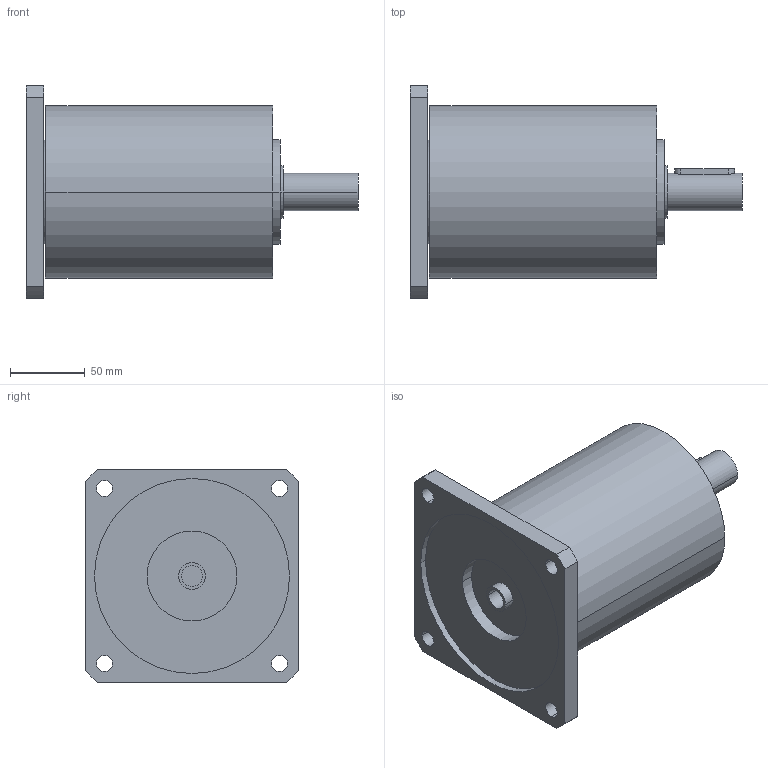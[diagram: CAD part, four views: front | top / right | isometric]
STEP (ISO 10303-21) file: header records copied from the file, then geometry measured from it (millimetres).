
FILE_DESCRIPTION(('CoCreate Modeling STEP Export'),'2;1');
FILE_NAME('GPR125_ig-9-12-16-20-28-35_25_B14_14_P08.stp','2014-08-26T14:09:38',(''),(''),'CoCreate Modeling STEP processor for AP214 (Solid Model)','CoCreate Modeling 16.00C 25-Feb-2009 (C) Parametric Technology GmbH','');
FILE_SCHEMA(('AUTOMOTIVE_DESIGN { 1 0 10303 214 1 1 1 1 }'));
Length unit declared in the file: millimetre
Products named in the file (2): GPR125_ig-9-12-16-20-28-35_25_B14_14_P08
Assembly tree (1 placements, depth 2):
  GPR125_ig-9-12-16-20-28-35_25_B14_14_P08
    GPR125_ig-9-12-16-20-28-35_25_B14_14_P08
Bounding box: 221.4 x 142 x 142 mm (x, y, z)
Volume: 1767454.1 mm3; surface area: 128829.2 mm2
Topology: 1 solids, 1 shells, 68 faces, 188 edges, 134 vertices
Faces by surface type: cylinder 42, plane 22, cone 4
Entity records: 1928 total; most frequent: ORIENTED_EDGE 372, CARTESIAN_POINT 363, DIRECTION 258, EDGE_CURVE 186, VERTEX_POINT 134, AXIS2_PLACEMENT_3D 97, EDGE_LOOP 90, FACE_OUTER_BOUND 68
